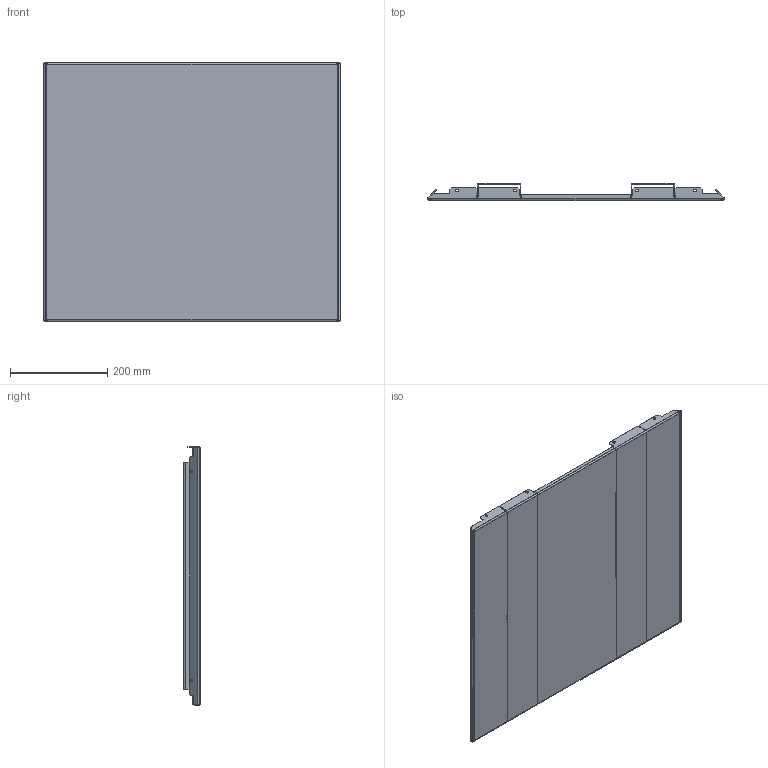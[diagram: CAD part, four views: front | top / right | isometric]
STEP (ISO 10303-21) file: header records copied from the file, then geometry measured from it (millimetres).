
FILE_DESCRIPTION(/* description */ ('Unknown'),/* implementation_level */ '2;1');
FILE_NAME(/* name */ 'Nedre frontplåt C420 med flikar',/* time_stamp */ '2026-09-28T11:13:50+02:00',/* author */ ('Unknown'),/* organization */ ('Unknown'),/* preprocessor_version */ 'ST-DEVELOPER v20',/* originating_system */ 'Solid Edge',/* authorisation */ 'Unknown');
FILE_SCHEMA (('AUTOMOTIVE_DESIGN {1 0 10303 214 3 1 1}'));
Length unit declared in the file: millimetre
Products named in the file (7): DSN1132512; DSN1132471; DSN1132472; FilletWeld_2; FilletWeld_3; DSN1140823; FilletWeld_4
Assembly tree (7 placements, depth 3):
  DSN1132512
    DSN1132471
      DSN1132472
      FilletWeld_2
      FilletWeld_3
      DSN1140823  x2
      FilletWeld_4
Bounding box: 609.99 x 35 x 533 mm (x, y, z)
Volume: 765502.8 mm3; surface area: 1031905.2 mm2
Topology: 19 solids, 19 shells, 474 faces, 1272 edges, 836 vertices
Faces by surface type: plane 390, cylinder 68, bspline 12, cone 4
Full cylindrical faces by diameter (mm): 5 x4, 5.5 x4
Entity records: 11893 total; most frequent: CARTESIAN_POINT 2488, ORIENTED_EDGE 1912, DIRECTION 1808, EDGE_CURVE 956, LINE 792, VECTOR 792, VERTEX_POINT 628, AXIS2_PLACEMENT_3D 508
